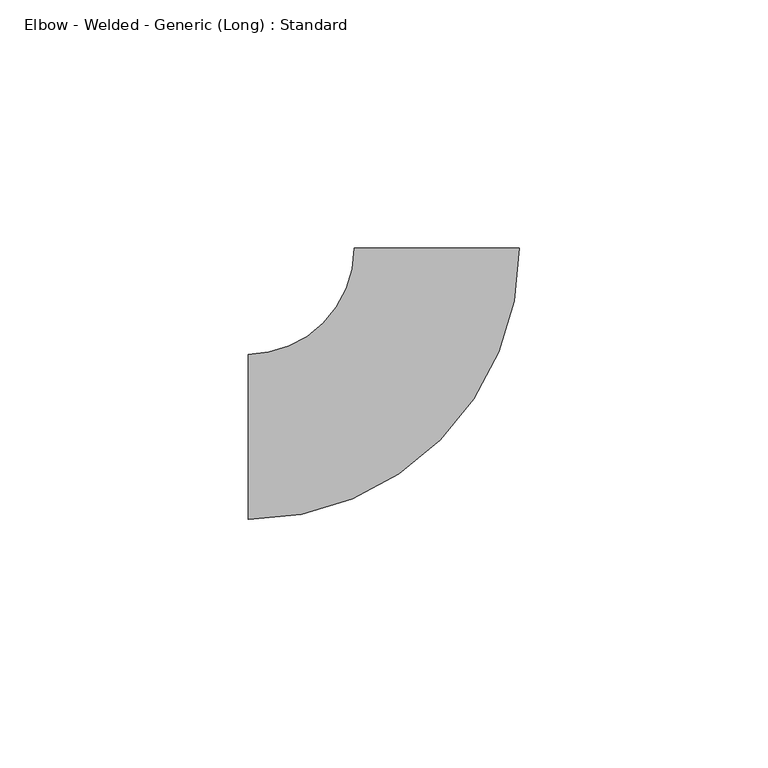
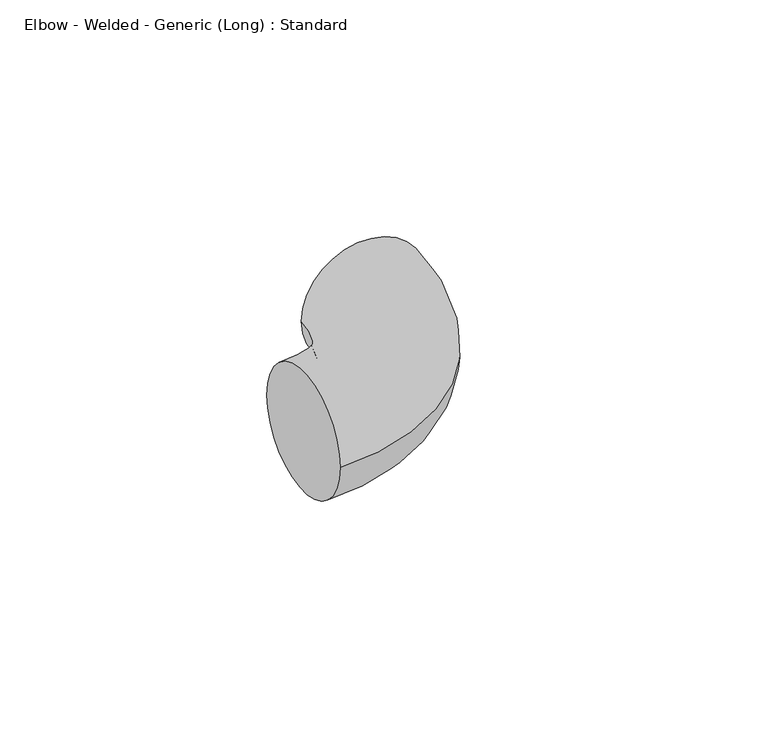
"""IFC4 building model written with IfcOpenShell, lengths in millimetres: pipe fitting geometry, Elbow - Welded - Generic (Long) : Standard."""

from ifc_helpers import new_model, si_unit, point, frame, origin, place, context, project, spatial, circle_curve, ellipse_curve, trimmed, source, transform, mapped, element, save
from ifc_brep_helpers import plane_surface, revolved_surface, advanced_brep


def elbow_welded_generic_long_standard_9e31a63d(model_context):
    return source(origin(), model_context, "Body", "AdvancedBrep", [
        advanced_brep(
        [(-38.1, -16.66875, 0.0), (-38.1, 16.66875, 0.0), (16.6047115, 38.1279528, 0.0), (-16.7327415, 38.0719397, 0.0)],
        [
            (0, 1, circle_curve(frame((-38.1, 0.0, 0.0), z_axis=(-1.0, 0.0, 0.0), x_axis=(0.0, 1.0, 0.0)), 16.66875)),
            (1, 0, circle_curve(frame((-38.1, 0.0, 0.0), z_axis=(-1.0, 0.0, 0.0), x_axis=(0.0, 1.0, 0.0)), 16.66875)),
            (2, 3, circle_curve(frame((-0.064015, 38.0999462, 0.0), z_axis=(-0.001680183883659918, 0.9999985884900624, 0.0), x_axis=(-0.9999985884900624, -0.001680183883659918, 0.0)), 16.66875)),
            (3, 2, circle_curve(frame((-0.064015, 38.0999462, 0.0), z_axis=(-0.001680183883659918, 0.9999985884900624, 0.0), x_axis=(-0.9999985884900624, -0.001680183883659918, 0.0)), 16.66875)),
            (3, 1, circle_curve(frame((-38.1, 38.0360387, 0.0), z_axis=(0.0, 0.0, -1.0), x_axis=(0.0, -1.0, 0.0)), 21.3672887)),
            (0, 2, circle_curve(frame((-38.1, 38.0360387, 0.0), z_axis=(0.0, 0.0, 1.0), x_axis=(0.0, -1.0, 0.0)), 54.7047887)),
        ],
        [
            plane_surface(frame((-38.1, 0.0, 0.0), z_axis=(-1.0, 0.0, 0.0), x_axis=(0.0, 0.0, 1.0))),
            plane_surface(frame((-0.064015, 38.0999462, 0.0), z_axis=(-0.0016801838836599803, 0.9999985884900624, 0.0), x_axis=(0.0, 0.0, 1.0))),
            revolved_surface(trimmed(ellipse_curve(frame((-38.1, 0.0, 0.0), z_axis=(-1.0, 0.0, 0.0), x_axis=(0.0, 1.0, 0.0)), 16.66875, 16.66875), [point((-38.1, -16.66875, 0.0))], [point((-38.1, 16.66875, 0.0))], True, "CARTESIAN"), (-38.1, 38.0360387, 0.0), (0.0, 0.0, 1.0)),
            revolved_surface(trimmed(ellipse_curve(frame((-38.1, 0.0, 0.0), z_axis=(-1.0, 0.0, 0.0), x_axis=(0.0, 1.0, 0.0)), 16.66875, 16.66875), [point((-38.1, 16.66875, 0.0))], [point((-38.1, -16.66875, 0.0))], True, "CARTESIAN"), (-38.1, 38.0360387, 0.0), (0.0, 0.0, 1.0)),
        ],
        [
            (0, [[1, 2]]),
            (1, [[3, 4]]),
            (2, [[5, -1, 6, -4]]),
            (3, [[-6, -2, -5, -3]]),
        ],
    ),
    ])


if __name__ == "__main__":
    model = new_model("IFC4")
    model_context = context("Model", 3, world=origin())
    ifc_project = project(units=[si_unit("LENGTHUNIT", "METRE", prefix="MILLI")], contexts=[model_context])
    site = spatial("IfcSite", under=ifc_project)
    building = spatial("IfcBuilding", under=site)
    placement = place(None, origin())
    elbow_welded_generic_long_standard_shape = elbow_welded_generic_long_standard_9e31a63d(model_context)
    element("IfcPipeFitting", 1, ObjectType="Elbow - Welded - Generic (Long) : Standard", at=placement, inside=building, context=model_context, shape_type="MappedRepresentation", body=[
        mapped(elbow_welded_generic_long_standard_shape, transform((0.0, 0.0, 0.0), x_axis=(1.0, 0.0, 0.0), y_axis=(0.0, 1.0, 0.0), z_axis=(0.0, 0.0, 1.0))),
    ])
    save(model, "model.ifc")
